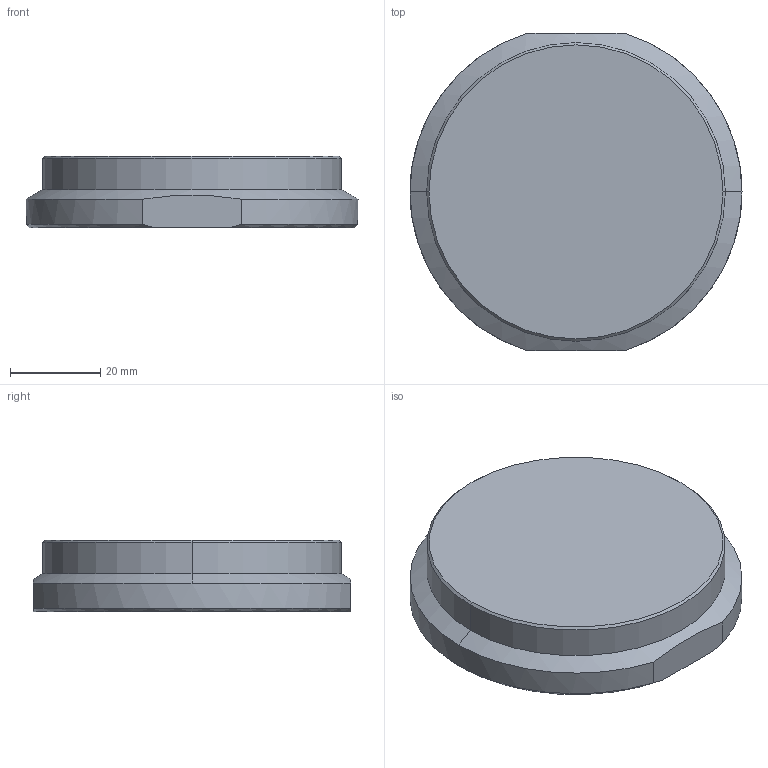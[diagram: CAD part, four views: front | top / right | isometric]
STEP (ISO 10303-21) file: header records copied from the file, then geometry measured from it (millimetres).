
FILE_DESCRIPTION((''),'2;1');
FILE_NAME('RMC-4003','2007-09-27T',('glafferty'),('Pleasant Precision, Inc. (419)675-0556'),'PRO/ENGINEER BY PARAMETRIC TECHNOLOGY CORPORATION, 2006080','PRO/ENGINEER BY PARAMETRIC TECHNOLOGY CORPORATION, 2006080','');
FILE_SCHEMA(('CONFIG_CONTROL_DESIGN'));
Length unit declared in the file: inch
Products named in the file (1): RMC-4003
Bounding box: 73.41 x 70.1 x 15.88 mm (x, y, z)
Volume: 59805.5 mm3; surface area: 11372.4 mm2
Topology: 1 solids, 1 shells, 17 faces, 38 edges, 24 vertices
Faces by surface type: cone 6, cylinder 6, plane 5
Entity records: 540 total; most frequent: CARTESIAN_POINT 113, DIRECTION 84, ORIENTED_EDGE 76, EDGE_CURVE 38, AXIS2_PLACEMENT_3D 35, VERTEX_POINT 24, EDGE_LOOP 18, CIRCLE 18
